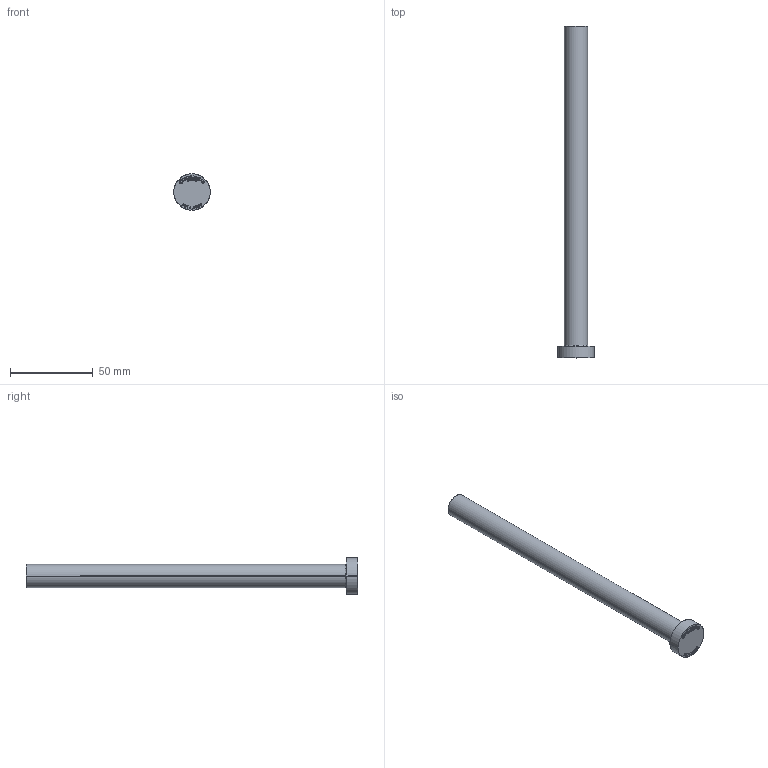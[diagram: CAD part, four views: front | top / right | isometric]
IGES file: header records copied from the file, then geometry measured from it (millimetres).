
Start section: SolidWorks IGES file using analytic representation for surfaces
Global section: file name: C:\Users\User\Downloads\Matripeça 31-08 tar\PB - PINO EXTRATOR TIPO _B_ (CATÁLOGO)\PB14,0\PB14,0200.IGS; native system: SolidWorks 2024; preprocessor: SolidWorks 2024; author: User; date: 260901.154513; units: millimetre
Bounding box: 22 x 200 x 22 mm (x, y, z)
Surface area: 9735.1 mm2 (no closed solid volume)
Topology: 0 solids, 0 shells, 398 faces, 4098 edges, 4098 vertices
Faces by surface type: bspline 384, revolution 14
